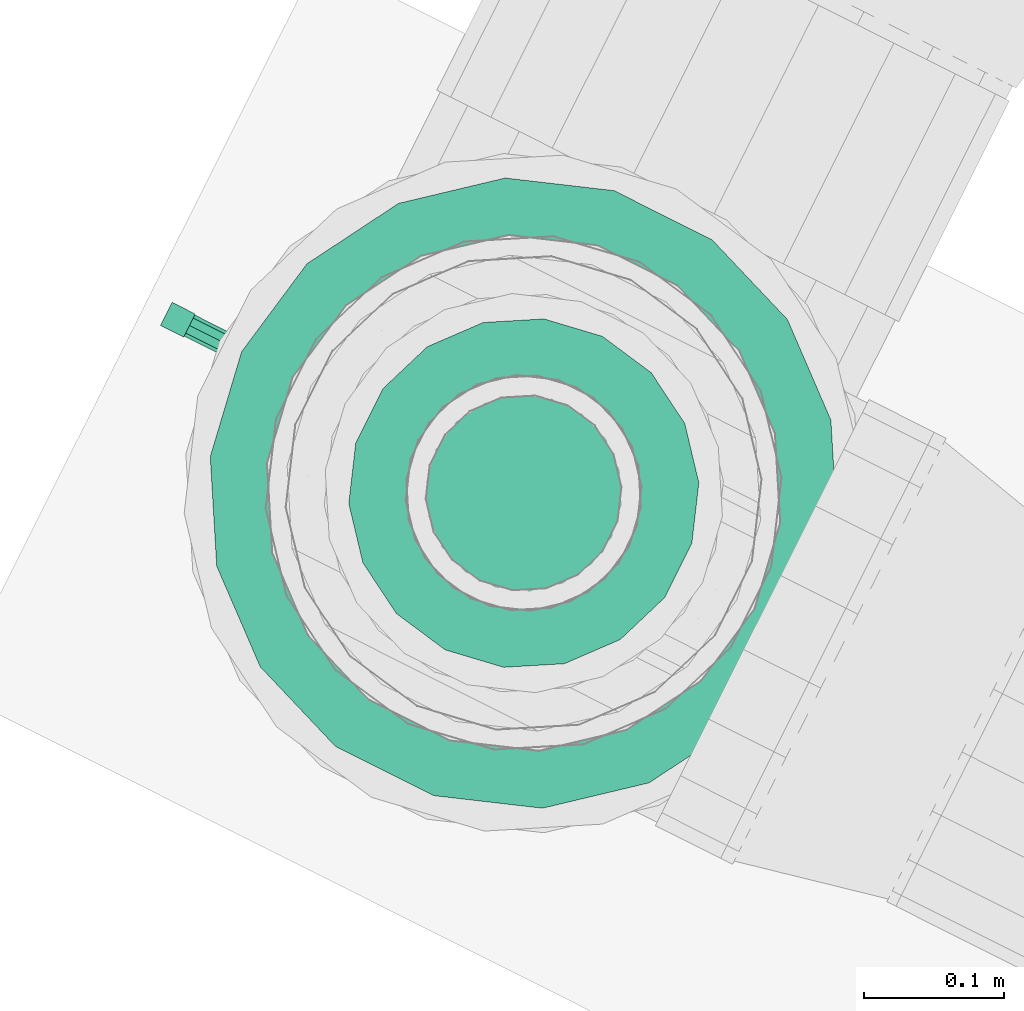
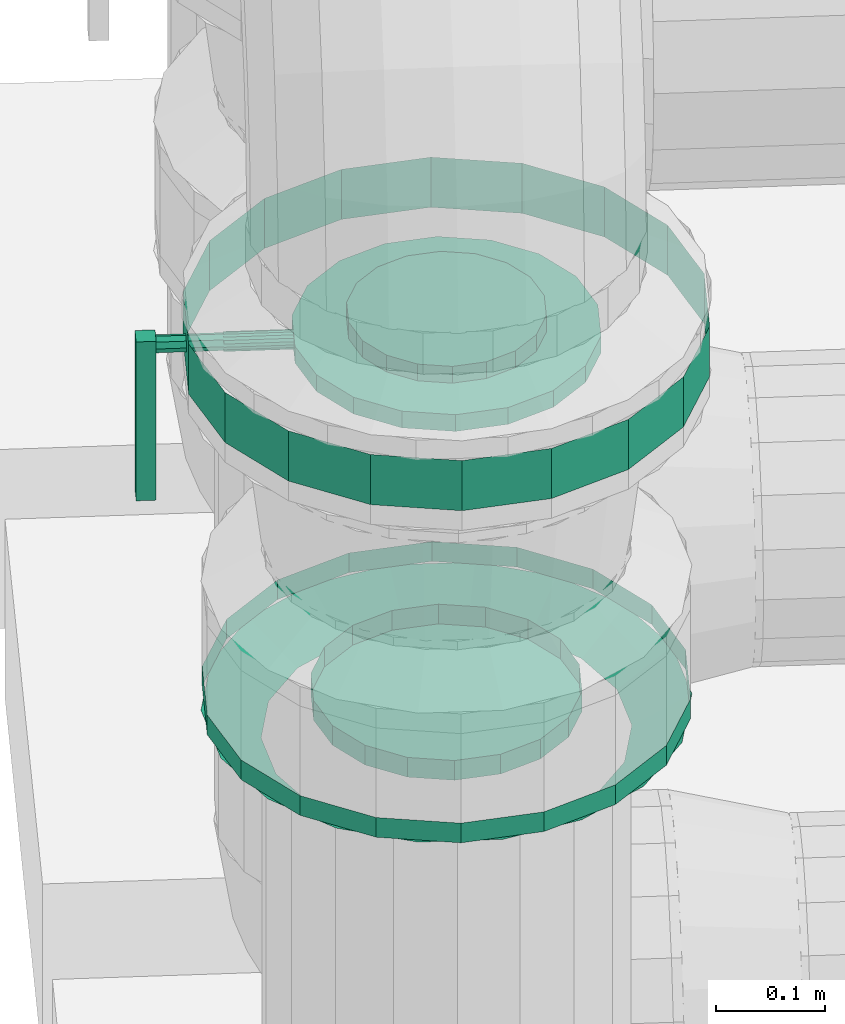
# One storey, part 98 of 152: 1 flow controller, 1 flow fitting.
"""IFC2X3 building model written with IfcOpenShell, lengths in metres."""

from ifc_helpers import new_model, si_unit, derived_unit, direction, frame, origin, place, context, subcontext, project, spatial, face_set, surface_model, source, transform, mapped, material, type_object, type_shapes, element, save


model = new_model("IFC2X3")

# Units and contexts
model_context = context("Model", 3, precision=5.2338327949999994e-05, world=origin(), true_north=direction((0.0, 1.0)))
body_context = subcontext(model_context, "Body", "Model", "MODEL_VIEW")
ifc_project = project(units=[si_unit("LENGTHUNIT", "METRE"), si_unit("AREAUNIT", "SQUARE_METRE"), si_unit("VOLUMEUNIT", "CUBIC_METRE"), si_unit("MASSUNIT", "GRAM", prefix="KILO"), si_unit("PLANEANGLEUNIT", "RADIAN"), derived_unit("THERMALTRANSMITTANCEUNIT", [(si_unit("MASSUNIT", "GRAM", prefix="KILO"), 1), (si_unit("THERMODYNAMICTEMPERATUREUNIT", "KELVIN"), -1), (si_unit("TIMEUNIT", "SECOND"), -3)])], contexts=[model_context])

# Site, building, storey
site_placement = place(None, frame((0.0, 0.0, 0.0), z_axis=(0.0, 0.0, 1.0), x_axis=(0.8939966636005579, -0.4480736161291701, 0.0)))
site = spatial("IfcSite", under=ifc_project, at=site_placement, Name="Default", CompositionType="ELEMENT")
building_placement = place(site_placement, origin())
building = spatial("IfcBuilding", under=site, at=building_placement, CompositionType="ELEMENT")
storey_placement = place(building_placement, frame((0.0, 0.0, 2.7499999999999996)))
storey = spatial("IfcBuildingStorey", under=building, at=storey_placement, Name="1. Obergeschoss", CompositionType="ELEMENT", Elevation=2.7499999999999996)

# Flow fitting
ifc_material = material(Name="IfcSurfaceStyle #9317")
distribution_element_type_1 = type_object("IfcDistributionElementType", Name="Flansch 237139:Flansch 237139", material=ifc_material)
shared_shape_1 = source(origin(), body_context, "Body", "SurfaceModel", [
    surface_model("IfcFaceBasedSurfaceModel", [(9.555920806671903, 5.856787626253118, 4.120071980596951), (9.560133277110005, 5.83289751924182, 4.12007198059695), (9.552474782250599, 5.8301100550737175, 4.15307198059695), (9.5477708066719, 5.856787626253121, 4.153071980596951), (9.572262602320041, 5.811888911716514, 4.12007198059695), (9.56601934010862, 5.806650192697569, 4.15307198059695), (9.5908458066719, 5.796295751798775, 4.12007198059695), (9.5867708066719, 5.789237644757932, 4.15307198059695), (9.613641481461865, 5.787998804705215, 4.12007198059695), (9.61222624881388, 5.779972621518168, 4.15307198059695), (9.637900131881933, 5.787998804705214, 4.12007198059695), (9.639315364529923, 5.779972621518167, 4.15307198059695), (9.660695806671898, 5.796295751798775, 4.120071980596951), (9.664770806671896, 5.789237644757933, 4.15307198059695), (9.679279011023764, 5.8118889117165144, 4.120071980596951), (9.685522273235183, 5.806650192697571, 4.15307198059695), (9.691408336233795, 5.83289751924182, 4.120071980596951), (9.6990668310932, 5.8301100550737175, 4.15307198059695), (9.6956208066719, 5.856787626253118, 4.120071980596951), (9.7037708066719, 5.856787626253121, 4.15307198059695), (9.691408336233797, 5.880677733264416, 4.120071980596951), (9.699066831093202, 5.88346519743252, 4.15307198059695), (9.67927901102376, 5.901686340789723, 4.120071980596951), (9.685522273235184, 5.906925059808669, 4.15307198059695), (9.6606958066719, 5.917279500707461, 4.12007198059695), (9.6647708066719, 5.924337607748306, 4.15307198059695), (9.637900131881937, 5.925576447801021, 4.12007198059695), (9.63931536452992, 5.933602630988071, 4.15307198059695), (9.613641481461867, 5.9255764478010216, 4.12007198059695), (9.61222624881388, 5.933602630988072, 4.15307198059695), (9.5908458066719, 5.91727950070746, 4.12007198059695), (9.586770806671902, 5.924337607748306, 4.15307198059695), (9.57226260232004, 5.901686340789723, 4.120071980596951), (9.566019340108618, 5.906925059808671, 4.15307198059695), (9.560133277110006, 5.880677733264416, 4.12007198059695), (9.5524747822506, 5.883465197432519, 4.15307198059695), (9.625770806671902, 5.98178762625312, 4.15307198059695), (9.583018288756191, 5.974249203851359, 4.15307198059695), (9.583018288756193, 5.974249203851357, 4.175071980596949), (9.625770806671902, 5.981787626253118, 4.175071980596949), (9.545422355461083, 5.95254318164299, 4.15307198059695), (9.545422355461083, 5.95254318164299, 4.175071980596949), (9.517517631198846, 5.919287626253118, 4.15307198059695), (9.517517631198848, 5.919287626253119, 4.175071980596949), (9.502669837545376, 5.878493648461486, 4.15307198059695), (9.502669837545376, 5.878493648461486, 4.175071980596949), (9.502669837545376, 5.835081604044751, 4.15307198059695), (9.502669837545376, 5.835081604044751, 4.175071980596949), (9.517517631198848, 5.7942876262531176, 4.15307198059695), (9.517517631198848, 5.794287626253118, 4.175071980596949), (9.545422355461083, 5.761032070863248, 4.15307198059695), (9.545422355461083, 5.761032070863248, 4.175071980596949), (9.583018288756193, 5.73932604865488, 4.15307198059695), (9.583018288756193, 5.73932604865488, 4.175071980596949), (9.6257708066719, 5.731787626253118, 4.15307198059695), (9.6257708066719, 5.731787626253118, 4.175071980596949), (9.668523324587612, 5.73932604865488, 4.15307198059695), (9.668523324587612, 5.739326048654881, 4.175071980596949), (9.706119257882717, 5.761032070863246, 4.15307198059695), (9.706119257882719, 5.761032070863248, 4.175071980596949), (9.734023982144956, 5.794287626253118, 4.15307198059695), (9.734023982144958, 5.794287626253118, 4.175071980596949), (9.748871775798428, 5.835081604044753, 4.15307198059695), (9.748871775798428, 5.835081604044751, 4.175071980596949), (9.74887177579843, 5.878493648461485, 4.15307198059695), (9.748871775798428, 5.878493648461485, 4.175071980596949), (9.734023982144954, 5.919287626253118, 4.15307198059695), (9.734023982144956, 5.919287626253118, 4.175071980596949), (9.70611925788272, 5.952543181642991, 4.15307198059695), (9.70611925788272, 5.952543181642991, 4.175071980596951), (9.668523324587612, 5.974249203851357, 4.15307198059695), (9.668523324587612, 5.974249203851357, 4.175071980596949), (9.625770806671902, 5.856787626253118, 4.15307198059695), (9.4559208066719, 5.856787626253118, 4.120071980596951), (9.466164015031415, 5.798695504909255, 4.120071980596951), (9.414339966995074, 5.779833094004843, 4.15307198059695), (9.400770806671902, 5.856787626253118, 4.15307198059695), (9.495658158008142, 5.747610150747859, 4.120071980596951), (9.45341080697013, 5.712160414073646, 4.15307198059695), (9.540845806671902, 5.709693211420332, 4.12007198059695), (9.513270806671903, 5.661931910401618, 4.15307198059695), (9.596276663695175, 5.689518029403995, 4.12007198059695), (9.586699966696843, 5.635205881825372, 4.15307198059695), (9.655264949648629, 5.689518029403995, 4.120071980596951), (9.664841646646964, 5.635205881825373, 4.15307198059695), (9.710695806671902, 5.709693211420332, 4.12007198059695), (9.738270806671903, 5.661931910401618, 4.15307198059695), (9.755883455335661, 5.747610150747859, 4.120071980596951), (9.798130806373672, 5.712160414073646, 4.15307198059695), (9.785377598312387, 5.7986955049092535, 4.12007198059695), (9.837201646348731, 5.779833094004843, 4.15307198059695), (9.795620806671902, 5.856787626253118, 4.120071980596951), (9.850770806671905, 5.856787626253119, 4.15307198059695), (9.785377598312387, 5.9148797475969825, 4.120071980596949), (9.837201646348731, 5.933742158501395, 4.15307198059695), (9.755883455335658, 5.965965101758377, 4.12007198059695), (9.798130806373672, 6.001414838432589, 4.153071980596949), (9.7106958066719, 6.003882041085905, 4.120071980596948), (9.738270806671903, 6.051643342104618, 4.153071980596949), (9.65526494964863, 6.024057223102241, 4.12007198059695), (9.664841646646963, 6.078369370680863, 4.15307198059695), (9.596276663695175, 6.024057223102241, 4.12007198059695), (9.586699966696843, 6.078369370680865, 4.15307198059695), (9.540845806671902, 6.003882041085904, 4.120071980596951), (9.513270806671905, 6.051643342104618, 4.15307198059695), (9.495658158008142, 5.965965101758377, 4.12007198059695), (9.45341080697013, 6.00141483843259, 4.15307198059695), (9.466164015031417, 5.914879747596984, 4.120071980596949), (9.414339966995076, 5.933742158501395, 4.153071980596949), (9.6257708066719, 6.081787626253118, 4.15307198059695), (9.548816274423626, 6.068218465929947, 4.15307198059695), (9.548816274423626, 6.068218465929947, 4.175071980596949), (9.6257708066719, 6.081787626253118, 4.175071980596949), (9.481143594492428, 6.029147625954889, 4.15307198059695), (9.48114359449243, 6.029147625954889, 4.175071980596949), (9.4309150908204, 5.969287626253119, 4.15307198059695), (9.4309150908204, 5.969287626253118, 4.175071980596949), (9.404189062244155, 5.895858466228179, 4.15307198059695), (9.404189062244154, 5.895858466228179, 4.175071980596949), (9.404189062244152, 5.8177167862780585, 4.15307198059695), (9.404189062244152, 5.8177167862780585, 4.175071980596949), (9.430915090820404, 5.744287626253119, 4.15307198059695), (9.430915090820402, 5.744287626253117, 4.175071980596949), (9.48114359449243, 5.684427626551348, 4.15307198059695), (9.481143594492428, 5.68442762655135, 4.175071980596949), (9.548816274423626, 5.645356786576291, 4.15307198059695), (9.548816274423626, 5.645356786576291, 4.175071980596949), (9.6257708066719, 5.631787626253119, 4.15307198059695), (9.625770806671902, 5.631787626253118, 4.17507198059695), (9.702725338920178, 5.64535678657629, 4.15307198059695), (9.702725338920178, 5.64535678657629, 4.17507198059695), (9.770398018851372, 5.684427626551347, 4.15307198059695), (9.77039801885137, 5.684427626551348, 4.175071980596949), (9.820626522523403, 5.7442876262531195, 4.15307198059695), (9.820626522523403, 5.744287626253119, 4.175071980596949), (9.84735255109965, 5.8177167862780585, 4.15307198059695), (9.84735255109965, 5.8177167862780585, 4.175071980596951), (9.84735255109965, 5.895858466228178, 4.15307198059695), (9.84735255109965, 5.895858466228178, 4.175071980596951), (9.820626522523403, 5.969287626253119, 4.15307198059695), (9.820626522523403, 5.969287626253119, 4.175071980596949), (9.77039801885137, 6.029147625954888, 4.15307198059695), (9.77039801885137, 6.02914762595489, 4.175071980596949), (9.702725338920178, 6.068218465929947, 4.15307198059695), (9.702725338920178, 6.068218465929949, 4.175071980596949)], [face_set([[[0, 1, 2, 3]], [[1, 4, 5, 2]], [[4, 6, 7, 5]], [[6, 8, 9, 7]], [[8, 10, 11, 9]], [[10, 12, 13, 11]], [[12, 14, 15, 13]], [[14, 16, 17, 15]], [[16, 18, 19, 17]], [[18, 20, 21, 19]], [[20, 22, 23, 21]], [[22, 24, 25, 23]], [[24, 26, 27, 25]], [[26, 28, 29, 27]], [[28, 30, 31, 29]], [[30, 32, 33, 31]], [[32, 34, 35, 33]], [[34, 0, 3, 35]], [[36, 37, 38, 39]], [[37, 40, 41, 38]], [[40, 42, 43, 41]], [[42, 44, 45, 43]], [[44, 46, 47, 45]], [[46, 48, 49, 47]], [[48, 50, 51, 49]], [[50, 52, 53, 51]], [[52, 54, 55, 53]], [[54, 56, 57, 55]], [[56, 58, 59, 57]], [[58, 60, 61, 59]], [[60, 62, 63, 61]], [[62, 64, 65, 63]], [[64, 66, 67, 65]], [[66, 68, 69, 67]], [[68, 70, 71, 69]], [[70, 36, 39, 71]], [[72, 37, 36]], [[72, 40, 37]], [[72, 42, 40]], [[72, 44, 42]], [[72, 46, 44]], [[72, 48, 46]], [[72, 50, 48]], [[72, 52, 50]], [[72, 54, 52]], [[72, 56, 54]], [[72, 58, 56]], [[72, 60, 58]], [[72, 62, 60]], [[72, 64, 62]], [[72, 66, 64]], [[72, 68, 66]], [[72, 70, 68]], [[72, 36, 70]], [[73, 74, 75, 76]], [[74, 77, 78, 75]], [[77, 79, 80, 78]], [[79, 81, 82, 80]], [[81, 83, 84, 82]], [[83, 85, 86, 84]], [[85, 87, 88, 86]], [[87, 89, 90, 88]], [[89, 91, 92, 90]], [[91, 93, 94, 92]], [[93, 95, 96, 94]], [[95, 97, 98, 96]], [[97, 99, 100, 98]], [[99, 101, 102, 100]], [[101, 103, 104, 102]], [[103, 105, 106, 104]], [[105, 107, 108, 106]], [[107, 73, 76, 108]], [[109, 110, 111, 112]], [[110, 113, 114, 111]], [[113, 115, 116, 114]], [[115, 117, 118, 116]], [[117, 119, 120, 118]], [[119, 121, 122, 120]], [[121, 123, 124, 122]], [[123, 125, 126, 124]], [[125, 127, 128, 126]], [[127, 129, 130, 128]], [[129, 131, 132, 130]], [[131, 133, 134, 132]], [[133, 135, 136, 134]], [[135, 137, 138, 136]], [[137, 139, 140, 138]], [[139, 141, 142, 140]], [[141, 143, 144, 142]], [[143, 109, 112, 144]]])]),
])
type_shapes(distribution_element_type_1, [shared_shape_1])
flow_fitting_placement = place(storey_placement, frame((0.0, 0.0, -2.7499999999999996)))
element("IfcFlowFitting", 1, at=flow_fitting_placement, inside=storey, type_object=distribution_element_type_1, material=ifc_material, Name="Flansch", ObjectType="Flansch", context=body_context, shape_type="MappedRepresentation", body=[
    mapped(shared_shape_1, transform((0.0, 0.0, 0.0), scale=1.0)),
])

# Flow controller
distribution_element_type_2 = type_object("IfcDistributionElementType", Name="Zwischenflanschklappe 237162:Zwischenflanschklappe 237162", material=ifc_material)
shared_shape_2 = source(origin(), body_context, "Body", "SurfaceModel", [
    surface_model("IfcFaceBasedSurfaceModel", [(9.359170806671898, 5.86598762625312, 4.396006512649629), (9.359170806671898, 5.86598762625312, 4.5735065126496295), (9.359170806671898, 5.8475876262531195, 4.5735065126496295), (9.359170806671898, 5.8475876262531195, 4.396006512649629), (9.340770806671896, 5.8475876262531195, 4.5735065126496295), (9.340770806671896, 5.8475876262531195, 4.396006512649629), (9.340770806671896, 5.86598762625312, 4.5735065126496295), (9.340770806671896, 5.86598762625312, 4.396006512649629), (9.625770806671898, 5.764787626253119, 4.536306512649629), (9.657236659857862, 5.770335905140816, 4.536306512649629), (9.657236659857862, 5.770335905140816, 4.554973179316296), (9.625770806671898, 5.764787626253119, 4.554973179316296), (9.68490726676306, 5.786311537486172, 4.536306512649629), (9.68490726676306, 5.786311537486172, 4.554973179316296), (9.705445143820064, 5.810787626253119, 4.536306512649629), (9.705445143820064, 5.810787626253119, 4.554973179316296), (9.71637311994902, 5.840811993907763, 4.536306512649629), (9.71637311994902, 5.840811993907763, 4.554973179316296), (9.71637311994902, 5.872763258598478, 4.536306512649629), (9.71637311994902, 5.872763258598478, 4.554973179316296), (9.705445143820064, 5.9027876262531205, 4.536306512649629), (9.705445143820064, 5.9027876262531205, 4.554973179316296), (9.68490726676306, 5.927263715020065, 4.536306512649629), (9.68490726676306, 5.927263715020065, 4.554973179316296), (9.657236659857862, 5.943239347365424, 4.536306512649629), (9.657236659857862, 5.943239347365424, 4.554973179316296), (9.625770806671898, 5.948787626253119, 4.536306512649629), (9.625770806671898, 5.948787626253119, 4.554973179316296), (9.594304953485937, 5.943239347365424, 4.536306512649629), (9.594304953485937, 5.943239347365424, 4.554973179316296), (9.566634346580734, 5.927263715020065, 4.536306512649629), (9.566634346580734, 5.927263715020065, 4.554973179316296), (9.54609646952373, 5.9027876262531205, 4.536306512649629), (9.54609646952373, 5.9027876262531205, 4.554973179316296), (9.535168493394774, 5.872763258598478, 4.536306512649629), (9.535168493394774, 5.872763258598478, 4.554973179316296), (9.535168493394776, 5.840811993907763, 4.536306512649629), (9.535168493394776, 5.840811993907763, 4.554973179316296), (9.54609646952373, 5.810787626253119, 4.536306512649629), (9.54609646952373, 5.810787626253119, 4.554973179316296), (9.566634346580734, 5.786311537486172, 4.536306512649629), (9.566634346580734, 5.786311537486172, 4.554973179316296), (9.594304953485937, 5.770335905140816, 4.536306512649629), (9.594304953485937, 5.770335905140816, 4.554973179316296), (9.625770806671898, 5.856787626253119, 4.536306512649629), (9.625770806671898, 5.856787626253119, 4.554973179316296), (9.625770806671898, 5.714287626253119, 4.554973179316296), (9.674508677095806, 5.722881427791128, 4.554973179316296), (9.674508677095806, 5.722881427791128, 4.573639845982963), (9.625770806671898, 5.714287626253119, 4.573639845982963), (9.717368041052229, 5.747626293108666, 4.554973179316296), (9.717368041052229, 5.747626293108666, 4.573639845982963), (9.749179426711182, 5.785537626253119, 4.554973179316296), (9.749179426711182, 5.785537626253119, 4.573639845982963), (9.766105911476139, 5.832042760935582, 4.554973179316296), (9.766105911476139, 5.832042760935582, 4.573639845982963), (9.766105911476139, 5.881532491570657, 4.554973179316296), (9.766105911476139, 5.881532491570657, 4.573639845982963), (9.74917942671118, 5.928037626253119, 4.554973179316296), (9.74917942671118, 5.928037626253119, 4.573639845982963), (9.717368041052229, 5.965948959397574, 4.554973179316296), (9.717368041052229, 5.965948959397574, 4.573639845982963), (9.674508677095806, 5.990693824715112, 4.554973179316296), (9.674508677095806, 5.990693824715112, 4.573639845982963), (9.625770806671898, 5.999287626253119, 4.554973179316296), (9.625770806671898, 5.999287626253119, 4.573639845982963), (9.577032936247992, 5.990693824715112, 4.554973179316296), (9.577032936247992, 5.990693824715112, 4.573639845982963), (9.534173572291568, 5.965948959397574, 4.554973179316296), (9.534173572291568, 5.965948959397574, 4.573639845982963), (9.502362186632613, 5.928037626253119, 4.554973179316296), (9.502362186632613, 5.928037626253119, 4.573639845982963), (9.485435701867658, 5.881532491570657, 4.554973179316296), (9.485435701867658, 5.881532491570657, 4.573639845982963), (9.485435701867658, 5.832042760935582, 4.554973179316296), (9.485435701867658, 5.832042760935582, 4.573639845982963), (9.502362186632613, 5.785537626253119, 4.554973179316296), (9.502362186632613, 5.785537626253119, 4.573639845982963), (9.534173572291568, 5.747626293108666, 4.554973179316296), (9.534173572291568, 5.747626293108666, 4.573639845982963), (9.577032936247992, 5.722881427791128, 4.554973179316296), (9.577032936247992, 5.722881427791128, 4.573639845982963), (9.625770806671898, 5.856787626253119, 4.573639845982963), (9.625770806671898, 5.764787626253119, 4.573639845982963), (9.657236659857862, 5.770335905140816, 4.573639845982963), (9.657236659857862, 5.770335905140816, 4.59230651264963), (9.625770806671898, 5.764787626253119, 4.59230651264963), (9.68490726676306, 5.786311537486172, 4.573639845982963), (9.68490726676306, 5.786311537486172, 4.59230651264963), (9.705445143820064, 5.810787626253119, 4.573639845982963), (9.705445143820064, 5.810787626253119, 4.59230651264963), (9.71637311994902, 5.840811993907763, 4.573639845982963), (9.71637311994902, 5.840811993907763, 4.59230651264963), (9.71637311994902, 5.872763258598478, 4.573639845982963), (9.71637311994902, 5.872763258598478, 4.59230651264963), (9.705445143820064, 5.9027876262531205, 4.573639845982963), (9.705445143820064, 5.9027876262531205, 4.59230651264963), (9.68490726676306, 5.927263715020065, 4.573639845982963), (9.68490726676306, 5.927263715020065, 4.59230651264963), (9.657236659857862, 5.943239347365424, 4.573639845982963), (9.657236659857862, 5.943239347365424, 4.59230651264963), (9.625770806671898, 5.948787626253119, 4.573639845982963), (9.625770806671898, 5.948787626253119, 4.59230651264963), (9.594304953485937, 5.943239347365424, 4.573639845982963), (9.594304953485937, 5.943239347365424, 4.59230651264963), (9.566634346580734, 5.927263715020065, 4.573639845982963), (9.566634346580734, 5.927263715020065, 4.59230651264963), (9.54609646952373, 5.9027876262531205, 4.573639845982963), (9.54609646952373, 5.9027876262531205, 4.59230651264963), (9.535168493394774, 5.872763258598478, 4.573639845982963), (9.535168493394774, 5.872763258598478, 4.59230651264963), (9.535168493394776, 5.840811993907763, 4.573639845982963), (9.535168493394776, 5.840811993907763, 4.59230651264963), (9.54609646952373, 5.810787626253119, 4.573639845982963), (9.54609646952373, 5.810787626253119, 4.59230651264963), (9.566634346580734, 5.786311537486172, 4.573639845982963), (9.566634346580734, 5.786311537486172, 4.59230651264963), (9.594304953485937, 5.770335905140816, 4.573639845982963), (9.594304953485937, 5.770335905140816, 4.59230651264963), (9.625770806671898, 5.856787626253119, 4.592306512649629), (9.625770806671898, 5.847454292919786, 4.56430651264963), (9.625770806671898, 5.848017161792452, 4.567498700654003), (9.421220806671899, 5.848017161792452, 4.567498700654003), (9.421220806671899, 5.847454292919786, 4.56430651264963), (9.625770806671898, 5.849637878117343, 4.57030586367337), (9.421220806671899, 5.849637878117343, 4.57030586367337), (9.625770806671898, 5.852120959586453, 4.572389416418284), (9.421220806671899, 5.852120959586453, 4.572389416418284), (9.625770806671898, 5.855166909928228, 4.573498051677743), (9.421220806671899, 5.855166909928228, 4.573498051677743), (9.625770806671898, 5.85840834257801, 4.573498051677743), (9.421220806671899, 5.85840834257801, 4.573498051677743), (9.625770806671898, 5.861454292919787, 4.572389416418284), (9.421220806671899, 5.861454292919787, 4.572389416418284), (9.625770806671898, 5.863937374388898, 4.57030586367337), (9.421220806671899, 5.863937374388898, 4.57030586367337), (9.625770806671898, 5.8655580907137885, 4.567498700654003), (9.421220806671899, 5.8655580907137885, 4.567498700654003), (9.625770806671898, 5.866120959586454, 4.56430651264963), (9.421220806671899, 5.866120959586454, 4.56430651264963), (9.625770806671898, 5.865558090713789, 4.561114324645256), (9.421220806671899, 5.865558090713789, 4.561114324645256), (9.625770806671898, 5.863937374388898, 4.558307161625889), (9.421220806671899, 5.863937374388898, 4.558307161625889), (9.625770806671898, 5.861454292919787, 4.556223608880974), (9.421220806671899, 5.861454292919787, 4.556223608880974), (9.625770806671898, 5.85840834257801, 4.555114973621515), (9.421220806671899, 5.85840834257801, 4.555114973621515), (9.625770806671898, 5.855166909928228, 4.555114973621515), (9.421220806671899, 5.855166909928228, 4.555114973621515), (9.625770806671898, 5.852120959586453, 4.556223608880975), (9.421220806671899, 5.852120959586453, 4.556223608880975), (9.625770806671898, 5.849637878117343, 4.558307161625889), (9.421220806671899, 5.849637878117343, 4.558307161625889), (9.625770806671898, 5.848017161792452, 4.561114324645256), (9.421220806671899, 5.848017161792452, 4.561114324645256), (9.625770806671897, 5.856787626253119, 4.56430651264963), (9.421220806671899, 5.856787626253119, 4.56430651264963), (9.421220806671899, 5.848372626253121, 4.56430651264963), (9.421220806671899, 5.850837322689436, 4.570256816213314), (9.359170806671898, 5.850837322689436, 4.570256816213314), (9.359170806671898, 5.848372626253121, 4.56430651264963), (9.421220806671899, 5.856787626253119, 4.572721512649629), (9.359170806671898, 5.856787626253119, 4.572721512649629), (9.421220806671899, 5.862737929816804, 4.570256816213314), (9.359170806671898, 5.862737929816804, 4.570256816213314), (9.421220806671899, 5.865202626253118, 4.56430651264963), (9.359170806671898, 5.865202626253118, 4.56430651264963), (9.421220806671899, 5.862737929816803, 4.558356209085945), (9.359170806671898, 5.862737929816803, 4.558356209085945), (9.421220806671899, 5.856787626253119, 4.555891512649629), (9.359170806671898, 5.856787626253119, 4.555891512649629), (9.421220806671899, 5.8508373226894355, 4.558356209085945), (9.359170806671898, 5.8508373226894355, 4.558356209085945), (9.359170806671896, 5.856787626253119, 4.56430651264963), (9.625770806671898, 5.61428762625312, 4.536306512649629), (9.708710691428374, 5.628912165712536, 4.536306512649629), (9.708710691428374, 5.628912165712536, 4.59230651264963), (9.625770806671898, 5.61428762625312, 4.59230651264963), (9.781646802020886, 5.671021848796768, 4.536306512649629), (9.781646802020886, 5.671021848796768, 4.59230651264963), (9.835781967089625, 5.73553762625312, 4.536306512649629), (9.835781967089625, 5.73553762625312, 4.59230651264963), (9.864586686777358, 5.814677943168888, 4.536306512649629), (9.864586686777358, 5.814677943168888, 4.59230651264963), (9.864586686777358, 5.898897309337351, 4.536306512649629), (9.864586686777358, 5.898897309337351, 4.59230651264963), (9.835781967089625, 5.978037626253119, 4.536306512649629), (9.835781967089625, 5.978037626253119, 4.59230651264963), (9.781646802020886, 6.042553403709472, 4.536306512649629), (9.781646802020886, 6.042553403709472, 4.59230651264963), (9.708710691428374, 6.084663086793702, 4.536306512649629), (9.708710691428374, 6.084663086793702, 4.59230651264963), (9.625770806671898, 6.09928762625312, 4.536306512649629), (9.625770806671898, 6.09928762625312, 4.59230651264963), (9.542830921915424, 6.084663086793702, 4.536306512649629), (9.542830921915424, 6.084663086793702, 4.59230651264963), (9.469894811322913, 6.042553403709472, 4.536306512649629), (9.469894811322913, 6.042553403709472, 4.59230651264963), (9.415759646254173, 5.978037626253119, 4.536306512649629), (9.415759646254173, 5.978037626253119, 4.59230651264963), (9.386954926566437, 5.898897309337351, 4.536306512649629), (9.386954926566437, 5.898897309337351, 4.59230651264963), (9.386954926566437, 5.814677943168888, 4.536306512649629), (9.386954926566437, 5.814677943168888, 4.59230651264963), (9.41575964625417, 5.73553762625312, 4.536306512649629), (9.41575964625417, 5.73553762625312, 4.59230651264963), (9.469894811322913, 5.671021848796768, 4.536306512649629), (9.469894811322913, 5.671021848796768, 4.59230651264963), (9.542830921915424, 5.628912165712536, 4.536306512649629), (9.542830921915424, 5.628912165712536, 4.59230651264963)], [face_set([[[0, 1, 2, 3]], [[3, 2, 4, 5]], [[5, 4, 6, 7]], [[7, 6, 1, 0]], [[0, 3, 5, 7]], [[6, 4, 2, 1]], [[8, 9, 10, 11]], [[9, 12, 13, 10]], [[12, 14, 15, 13]], [[14, 16, 17, 15]], [[16, 18, 19, 17]], [[18, 20, 21, 19]], [[20, 22, 23, 21]], [[22, 24, 25, 23]], [[24, 26, 27, 25]], [[26, 28, 29, 27]], [[28, 30, 31, 29]], [[30, 32, 33, 31]], [[32, 34, 35, 33]], [[34, 36, 37, 35]], [[36, 38, 39, 37]], [[38, 40, 41, 39]], [[40, 42, 43, 41]], [[42, 8, 11, 43]], [[44, 9, 8]], [[44, 12, 9]], [[44, 14, 12]], [[44, 16, 14]], [[44, 18, 16]], [[44, 20, 18]], [[44, 22, 20]], [[44, 24, 22]], [[44, 26, 24]], [[44, 28, 26]], [[44, 30, 28]], [[44, 32, 30]], [[44, 34, 32]], [[44, 36, 34]], [[44, 38, 36]], [[44, 40, 38]], [[44, 42, 40]], [[44, 8, 42]], [[45, 43, 11]], [[45, 41, 43]], [[45, 39, 41]], [[45, 37, 39]], [[45, 35, 37]], [[45, 33, 35]], [[45, 31, 33]], [[45, 29, 31]], [[45, 27, 29]], [[45, 25, 27]], [[45, 23, 25]], [[45, 21, 23]], [[45, 19, 21]], [[45, 17, 19]], [[45, 15, 17]], [[45, 13, 15]], [[45, 10, 13]], [[45, 11, 10]], [[46, 47, 48, 49]], [[47, 50, 51, 48]], [[50, 52, 53, 51]], [[52, 54, 55, 53]], [[54, 56, 57, 55]], [[56, 58, 59, 57]], [[58, 60, 61, 59]], [[60, 62, 63, 61]], [[62, 64, 65, 63]], [[64, 66, 67, 65]], [[66, 68, 69, 67]], [[68, 70, 71, 69]], [[70, 72, 73, 71]], [[72, 74, 75, 73]], [[74, 76, 77, 75]], [[76, 78, 79, 77]], [[78, 80, 81, 79]], [[80, 46, 49, 81]], [[45, 47, 46]], [[45, 50, 47]], [[45, 52, 50]], [[45, 54, 52]], [[45, 56, 54]], [[45, 58, 56]], [[45, 60, 58]], [[45, 62, 60]], [[45, 64, 62]], [[45, 66, 64]], [[45, 68, 66]], [[45, 70, 68]], [[45, 72, 70]], [[45, 74, 72]], [[45, 76, 74]], [[45, 78, 76]], [[45, 80, 78]], [[45, 46, 80]], [[82, 81, 49]], [[82, 79, 81]], [[82, 77, 79]], [[82, 75, 77]], [[82, 73, 75]], [[82, 71, 73]], [[82, 69, 71]], [[82, 67, 69]], [[82, 65, 67]], [[82, 63, 65]], [[82, 61, 63]], [[82, 59, 61]], [[82, 57, 59]], [[82, 55, 57]], [[82, 53, 55]], [[82, 51, 53]], [[82, 48, 51]], [[82, 49, 48]], [[83, 84, 85, 86]], [[84, 87, 88, 85]], [[87, 89, 90, 88]], [[89, 91, 92, 90]], [[91, 93, 94, 92]], [[93, 95, 96, 94]], [[95, 97, 98, 96]], [[97, 99, 100, 98]], [[99, 101, 102, 100]], [[101, 103, 104, 102]], [[103, 105, 106, 104]], [[105, 107, 108, 106]], [[107, 109, 110, 108]], [[109, 111, 112, 110]], [[111, 113, 114, 112]], [[113, 115, 116, 114]], [[115, 117, 118, 116]], [[117, 83, 86, 118]], [[82, 84, 83]], [[82, 87, 84]], [[82, 89, 87]], [[82, 91, 89]], [[82, 93, 91]], [[82, 95, 93]], [[82, 97, 95]], [[82, 99, 97]], [[82, 101, 99]], [[82, 103, 101]], [[82, 105, 103]], [[82, 107, 105]], [[82, 109, 107]], [[82, 111, 109]], [[82, 113, 111]], [[82, 115, 113]], [[82, 117, 115]], [[82, 83, 117]], [[119, 118, 86]], [[119, 116, 118]], [[119, 114, 116]], [[119, 112, 114]], [[119, 110, 112]], [[119, 108, 110]], [[119, 106, 108]], [[119, 104, 106]], [[119, 102, 104]], [[119, 100, 102]], [[119, 98, 100]], [[119, 96, 98]], [[119, 94, 96]], [[119, 92, 94]], [[119, 90, 92]], [[119, 88, 90]], [[119, 85, 88]], [[119, 86, 85]], [[120, 121, 122, 123]], [[121, 124, 125, 122]], [[124, 126, 127, 125]], [[126, 128, 129, 127]], [[128, 130, 131, 129]], [[130, 132, 133, 131]], [[132, 134, 135, 133]], [[134, 136, 137, 135]], [[136, 138, 139, 137]], [[138, 140, 141, 139]], [[140, 142, 143, 141]], [[142, 144, 145, 143]], [[144, 146, 147, 145]], [[146, 148, 149, 147]], [[148, 150, 151, 149]], [[150, 152, 153, 151]], [[152, 154, 155, 153]], [[154, 120, 123, 155]], [[156, 121, 120]], [[156, 124, 121]], [[156, 126, 124]], [[156, 128, 126]], [[156, 130, 128]], [[156, 132, 130]], [[156, 134, 132]], [[156, 136, 134]], [[156, 138, 136]], [[156, 140, 138]], [[156, 142, 140]], [[156, 144, 142]], [[156, 146, 144]], [[156, 148, 146]], [[156, 150, 148]], [[156, 152, 150]], [[156, 154, 152]], [[156, 120, 154]], [[157, 155, 123]], [[157, 153, 155]], [[157, 151, 153]], [[157, 149, 151]], [[157, 147, 149]], [[157, 145, 147]], [[157, 143, 145]], [[157, 141, 143]], [[157, 139, 141]], [[157, 137, 139]], [[157, 135, 137]], [[157, 133, 135]], [[157, 131, 133]], [[157, 129, 131]], [[157, 127, 129]], [[157, 125, 127]], [[157, 122, 125]], [[157, 123, 122]], [[158, 159, 160, 161]], [[159, 162, 163, 160]], [[162, 164, 165, 163]], [[164, 166, 167, 165]], [[166, 168, 169, 167]], [[168, 170, 171, 169]], [[170, 172, 173, 171]], [[172, 158, 161, 173]], [[174, 173, 161]], [[174, 171, 173]], [[174, 169, 171]], [[174, 167, 169]], [[174, 165, 167]], [[174, 163, 165]], [[174, 160, 163]], [[174, 161, 160]], [[175, 176, 177, 178]], [[176, 179, 180, 177]], [[179, 181, 182, 180]], [[181, 183, 184, 182]], [[183, 185, 186, 184]], [[185, 187, 188, 186]], [[187, 189, 190, 188]], [[189, 191, 192, 190]], [[191, 193, 194, 192]], [[193, 195, 196, 194]], [[195, 197, 198, 196]], [[197, 199, 200, 198]], [[199, 201, 202, 200]], [[201, 203, 204, 202]], [[203, 205, 206, 204]], [[205, 207, 208, 206]], [[207, 209, 210, 208]], [[209, 175, 178, 210]]])]),
])
type_shapes(distribution_element_type_2, [shared_shape_2])
flow_controller_placement = place(storey_placement, frame((0.0, 0.0, -2.7499999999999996)))
element("IfcFlowController", 2, at=flow_controller_placement, inside=storey, type_object=distribution_element_type_2, material=ifc_material, Name="Zwischenflanschklappe", ObjectType="Zwischenflanschklappe", context=body_context, shape_type="MappedRepresentation", body=[
    mapped(shared_shape_2, transform((0.0, 0.0, 0.0), scale=1.0)),
])

save(model, "model.ifc")
